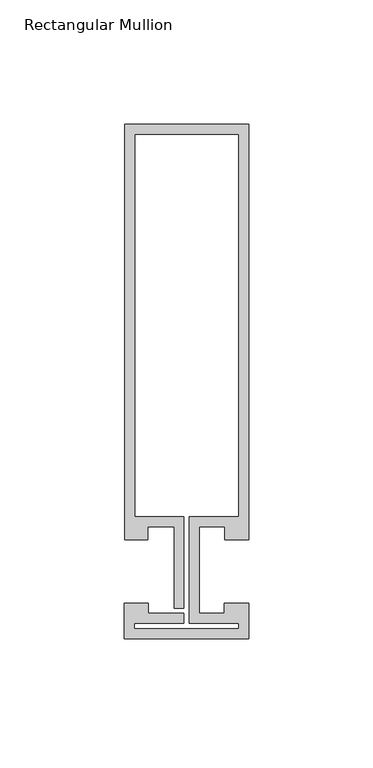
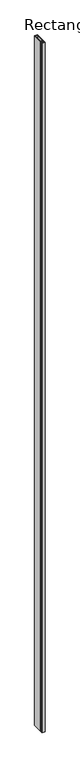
"""IFC4 building model written with IfcOpenShell, lengths in millimetres: member geometry, Rectangular Mullion : Reynaers_CW-50_Transom-Transom_167.5mm_Facecap-02A."""

from ifc_helpers import new_model, si_unit, frame, origin, place, context, project, spatial, polyline, outline, extrude, source, transform, mapped, element, save


def rectangular_mullion_c1439ce1(model_context):
    return source(origin(), model_context, "Body", "SweptSolid", [
        extrude(outline(polyline([(25.1995941, -12.7331291), (25.1995941, -27.0331291), (-24.994845, -27.0331291), (-24.994845, -12.7331291), (-15.2996495, -12.7331291), (-15.2996495, -16.7331291), (-0.9004059, -16.7331291), (-0.9004059, -20.7331291), (-20.994845, -20.7331291), (-20.994845, -23.0331291), (21.1995941, -23.0331291), (21.1995941, -20.7331291), (1.2995941, -20.7331291), (1.2995941, 22.1331291), (21.1995941, 22.1331291), (21.1995941, 176.2331291), (-20.8004059, 176.2331291), (-20.8004059, 22.1331291), (-0.9004059, 22.1331291), (-0.9004059, -14.7331291), (-4.9004059, -14.7331291), (-4.9004059, 18.1331291), (-15.499, 18.1331291), (-15.499, 12.7331291), (-24.8004059, 12.7331291), (-24.8004059, 180.2331291), (25.1995941, 180.2331291), (25.1995941, 12.7331291), (15.499, 12.7331291), (15.499, 18.1331291), (5.2995941, 18.1331291), (5.2995941, -16.7331291), (15.2996495, -16.7331291), (15.2996495, -12.7331291), (25.1995941, -12.7331291)])), frame((0.0, 0.0, -12000.0), z_axis=(0.0, 0.0, 1.0), x_axis=(1.0, 0.0, 0.0)), (0.0, 0.0, 1.0), 12000.0),
    ])


if __name__ == "__main__":
    model = new_model("IFC4")
    model_context = context("Model", 3, world=origin())
    ifc_project = project(units=[si_unit("LENGTHUNIT", "METRE", prefix="MILLI")], contexts=[model_context])
    site = spatial("IfcSite", under=ifc_project)
    building = spatial("IfcBuilding", under=site)
    placement = place(None, origin())
    rectangular_mullion_shape = rectangular_mullion_c1439ce1(model_context)
    element("IfcMember", 1, ObjectType="Rectangular Mullion : Reynaers_CW-50_Transom-Transom_167.5mm_Facecap-02A", at=placement, inside=building, context=model_context, shape_type="MappedRepresentation", body=[
        mapped(rectangular_mullion_shape, transform((0.0, 0.0, 0.0), x_axis=(1.0, 0.0, 0.0), y_axis=(0.0, 1.0, 0.0), z_axis=(0.0, 0.0, 1.0))),
    ])
    save(model, "model.ifc")
